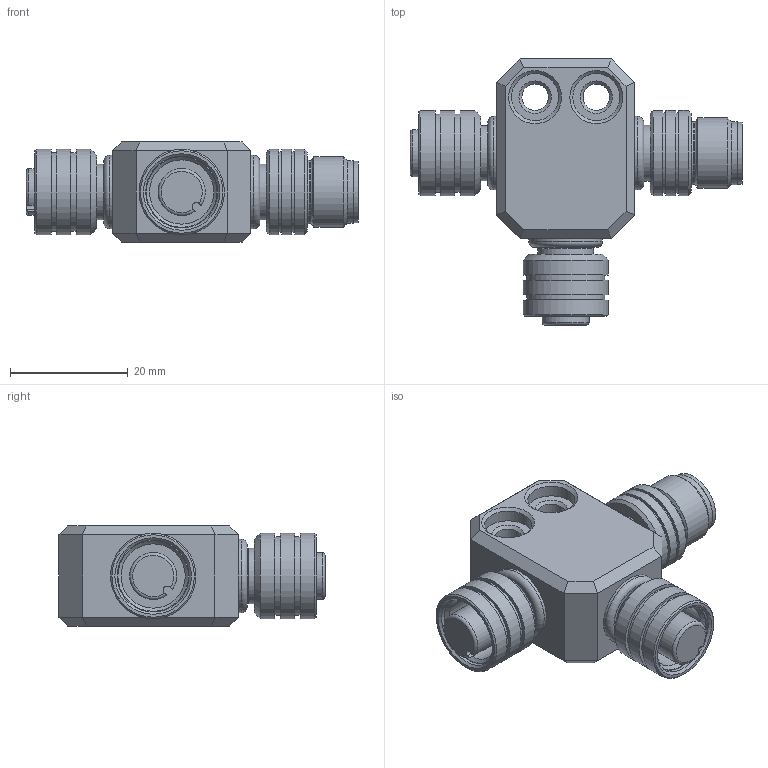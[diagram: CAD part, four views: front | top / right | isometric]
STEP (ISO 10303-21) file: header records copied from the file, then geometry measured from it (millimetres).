
FILE_DESCRIPTION( ( 'STEP AP203' ), '1' );
FILE_NAME( '//expscmdclustefs.cadenas.external/client_exchange/iodir/jobs/output/wkb81475103_no0/STEP/E11566_2_03.stp', ' ', ( ' ' ), ( ' ' ), 'PSStep 15.0.47', 'PARTsolutions', ' ' );
FILE_SCHEMA( ( 'CONFIG_CONTROL_DESIGN' ) );
Length unit declared in the file: millimetre
Products named in the file (1): _E11566
Bounding box: 56.4 x 45.2 x 17 mm (x, y, z)
Volume: 15605.7 mm3; surface area: 7101.9 mm2
Topology: 1 solids, 1 shells, 142 faces, 270 edges, 164 vertices
Faces by surface type: plane 67, cylinder 43, cone 25, torus 7
Full cylindrical faces by diameter (mm): 4.5 x2, 8 x4, 8.3 x1, 9.4 x1, 9.45 x3, 9.5 x1, 10.5 x1, 10.7 x2, 10.917 x2, 12 x1, 12.2 x2, 12.5 x3, 13.3 x4, 13.7 x2, 14.5 x9
Entity records: 3244 total; most frequent: DIRECTION 594, CARTESIAN_POINT 529, ORIENTED_EDGE 398, AXIS2_PLACEMENT_3D 258, EDGE_LOOP 248, EDGE_CURVE 199, FACE_OUTER_BOUND 185, VERTEX_POINT 161
